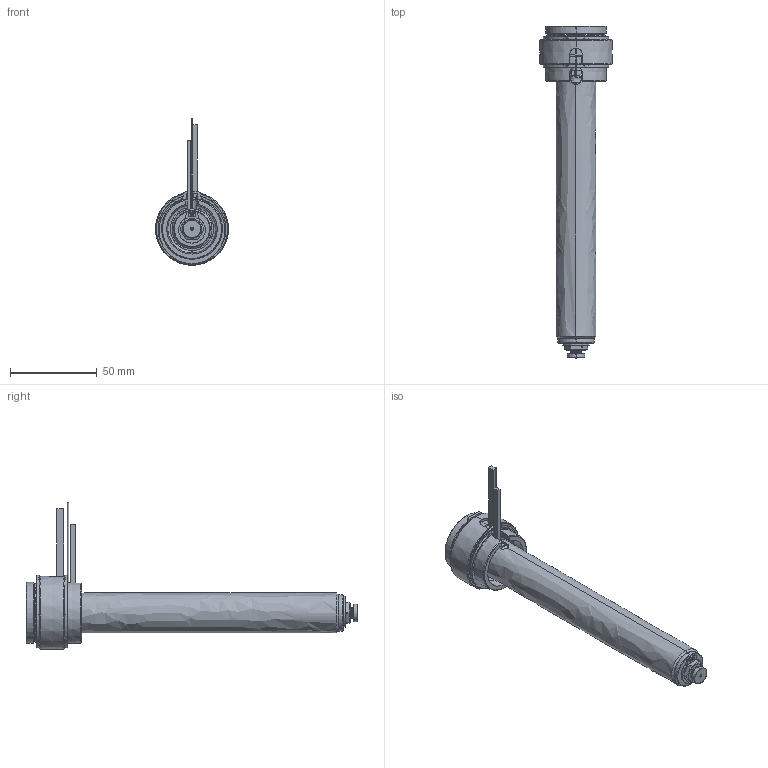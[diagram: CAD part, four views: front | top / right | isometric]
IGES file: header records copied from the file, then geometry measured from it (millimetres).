
Start section: SolidWorks IGES file using analytic representation for surfaces
Global section: file name: C:\Users\luca.EMPAD\Desktop\TEM\UGBE3504-S-A-3 [Ød-1.0 P-0 ØC-6.0].IGS; native system: SolidWorks 2012; preprocessor: SolidWorks 2012; author: luca; date: 120330.135454; units: millimetre
Bounding box: 42 x 191 x 84.4 mm (x, y, z)
Surface area: 35266.1 mm2 (no closed solid volume)
Topology: 0 solids, 0 shells, 184 faces, 3414 edges, 3414 vertices
Faces by surface type: revolution 117, bspline 67
